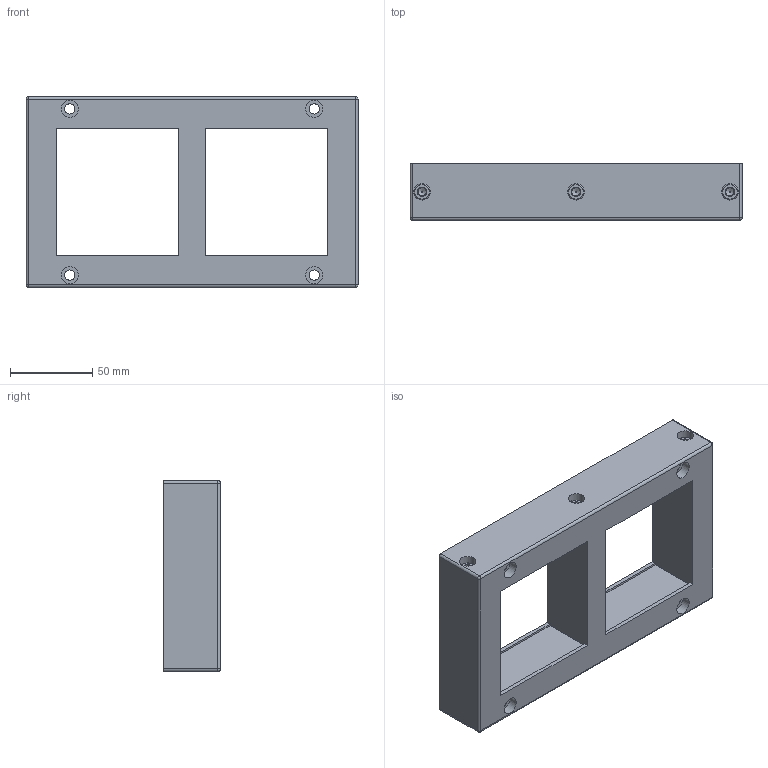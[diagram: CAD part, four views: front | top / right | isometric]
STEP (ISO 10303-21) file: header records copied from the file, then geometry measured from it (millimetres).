
FILE_DESCRIPTION(/* description */ (''),/* implementation_level */ '2;1');
FILE_NAME(/* name */ 'SM-KEL64-2.stp',/* time_stamp */ '2021-01-17T10:12:30+08:00',/* author */ (''),/* organization */ (''),/* preprocessor_version */ 'ST-DEVELOPER v16',/* originating_system */ 'SIEMENS PLM Software NX 10.0',/* authorisation */ '');
FILE_SCHEMA (('AUTOMOTIVE_DESIGN { 1 0 10303 214 3 1 1 1 }'));
Length unit declared in the file: millimetre
Products named in the file (1): SM-KEL64-2
Bounding box: 201.7 x 34.5 x 116 mm (x, y, z)
Volume: 394716.5 mm3; surface area: 70668.3 mm2
Topology: 1 solids, 1 shells, 163 faces, 373 edges, 224 vertices
Faces by surface type: plane 92, cone 45, cylinder 19, sphere 4, torus 3
Full cylindrical faces by diameter (mm): 6.3 x4, 10 x3, 10.5 x4
Entity records: 4388 total; most frequent: CARTESIAN_POINT 878, DIRECTION 718, ORIENTED_EDGE 674, EDGE_CURVE 337, AXIS2_PLACEMENT_3D 271, VERTEX_POINT 215, EDGE_LOOP 214, LINE 176
